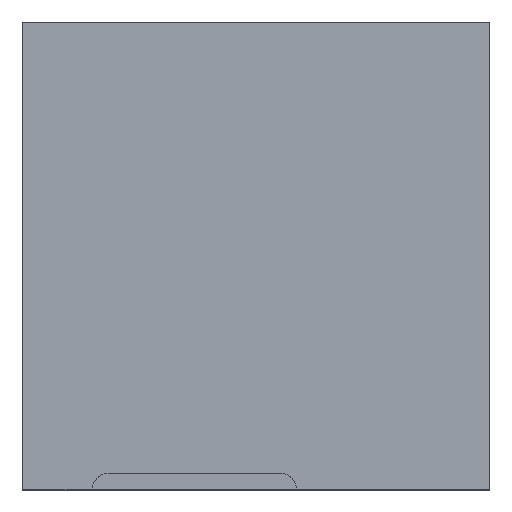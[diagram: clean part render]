
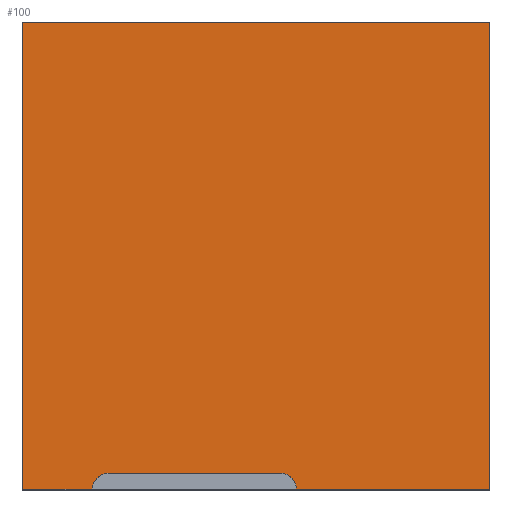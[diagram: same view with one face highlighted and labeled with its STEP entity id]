
A CAD part, top view. The second image highlights one B-rep face of the part: STEP entity #100.
In plain terms, the highlighted planar face has unit normal (0, 0, 1).
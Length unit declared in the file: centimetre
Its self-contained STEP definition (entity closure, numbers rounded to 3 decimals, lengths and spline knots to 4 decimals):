
#27 = LINE ( 'NONE', #314, #396 ) ;
#38 = CARTESIAN_POINT ( 'NONE',  ( 586.5266, 0., 1000. ) ) ;
#44 = DIRECTION ( 'NONE',  ( -1., 0., 0. ) ) ;
#79 = ORIENTED_EDGE ( 'NONE', *, *, #313, .T. ) ;
#92 = VECTOR ( 'NONE', #263, 100. ) ;
#94 = CARTESIAN_POINT ( 'NONE',  ( 0., 1000., 1000. ) ) ;
#100 = ADVANCED_FACE ( 'NONE', ( #522 ), #468, .T. ) ;
#104 = VERTEX_POINT ( 'NONE', #575 ) ;
#113 = ORIENTED_EDGE ( 'NONE', *, *, #726, .F. ) ;
#119 = DIRECTION ( 'NONE',  ( 1., 0., 0. ) ) ;
#158 = CARTESIAN_POINT ( 'NONE',  ( 183.9028, 34.1509, 1000. ) ) ;
#159 = EDGE_CURVE ( 'NONE', #387, #755, #27, .T. ) ;
#162 = CARTESIAN_POINT ( 'NONE',  ( 0., 1000., 1000. ) ) ;
#166 = AXIS2_PLACEMENT_3D ( 'NONE', #686, #690, #509 ) ;
#181 = DIRECTION ( 'NONE',  ( 0., 0., 1. ) ) ;
#190 = CARTESIAN_POINT ( 'NONE',  ( 552.3757, 34.1509, 1000. ) ) ;
#235 = ORIENTED_EDGE ( 'NONE', *, *, #485, .T. ) ;
#236 = LINE ( 'NONE', #655, #257 ) ;
#252 = LINE ( 'NONE', #190, #92 ) ;
#257 = VECTOR ( 'NONE', #119, 100. ) ;
#263 = DIRECTION ( 'NONE',  ( -1., 0., 0. ) ) ;
#274 = LINE ( 'NONE', #162, #310 ) ;
#285 = DIRECTION ( 'NONE',  ( 0., -1., 0. ) ) ;
#295 = AXIS2_PLACEMENT_3D ( 'NONE', #645, #181, #343 ) ;
#310 = VECTOR ( 'NONE', #44, 100. ) ;
#313 = EDGE_CURVE ( 'NONE', #104, #654, #756, .T. ) ;
#314 = CARTESIAN_POINT ( 'NONE',  ( 1000., 1000., 1000. ) ) ;
#319 = CARTESIAN_POINT ( 'NONE',  ( 0., 0., 1000. ) ) ;
#324 = DIRECTION ( 'NONE',  ( 0., 0., 1. ) ) ;
#328 = CARTESIAN_POINT ( 'NONE',  ( 0., 0., 1000. ) ) ;
#343 = DIRECTION ( 'NONE',  ( 1., 0., 0. ) ) ;
#370 = EDGE_CURVE ( 'NONE', #755, #104, #274, .T. ) ;
#387 = VERTEX_POINT ( 'NONE', #449 ) ;
#390 = VERTEX_POINT ( 'NONE', #158 ) ;
#396 = VECTOR ( 'NONE', #608, 100. ) ;
#408 = CIRCLE ( 'NONE', #166, 34.1509 ) ;
#433 = CIRCLE ( 'NONE', #552, 34.1509 ) ;
#438 = CARTESIAN_POINT ( 'NONE',  ( 149.7519, 0., 1000. ) ) ;
#449 = CARTESIAN_POINT ( 'NONE',  ( 1000., 0., 1000. ) ) ;
#468 = PLANE ( 'NONE',  #295 ) ;
#472 = EDGE_CURVE ( 'NONE', #654, #571, #236, .T. ) ;
#485 = EDGE_CURVE ( 'NONE', #647, #387, #606, .T. ) ;
#507 = ORIENTED_EDGE ( 'NONE', *, *, #616, .F. ) ;
#509 = DIRECTION ( 'NONE',  ( 1., 0., 0. ) ) ;
#522 = FACE_OUTER_BOUND ( 'NONE', #581, .T. ) ;
#546 = DIRECTION ( 'NONE',  ( 1., 0., 0. ) ) ;
#552 = AXIS2_PLACEMENT_3D ( 'NONE', #612, #324, #731 ) ;
#571 = VERTEX_POINT ( 'NONE', #438 ) ;
#575 = CARTESIAN_POINT ( 'NONE',  ( 0., 1000., 1000. ) ) ;
#581 = EDGE_LOOP ( 'NONE', ( #633, #507, #113, #235, #664, #636, #79, #619 ) ) ;
#596 = EDGE_CURVE ( 'NONE', #390, #571, #433, .T. ) ;
#597 = CARTESIAN_POINT ( 'NONE',  ( 552.3757, 34.1509, 1000. ) ) ;
#606 = LINE ( 'NONE', #319, #613 ) ;
#608 = DIRECTION ( 'NONE',  ( 0., 1., 0. ) ) ;
#612 = CARTESIAN_POINT ( 'NONE',  ( 183.9028, 0., 1000. ) ) ;
#613 = VECTOR ( 'NONE', #546, 100. ) ;
#616 = EDGE_CURVE ( 'NONE', #768, #390, #252, .T. ) ;
#618 = CARTESIAN_POINT ( 'NONE',  ( 1000., 1000., 1000. ) ) ;
#619 = ORIENTED_EDGE ( 'NONE', *, *, #472, .T. ) ;
#633 = ORIENTED_EDGE ( 'NONE', *, *, #596, .F. ) ;
#636 = ORIENTED_EDGE ( 'NONE', *, *, #370, .T. ) ;
#645 = CARTESIAN_POINT ( 'NONE',  ( 0., 0., 1000. ) ) ;
#647 = VERTEX_POINT ( 'NONE', #38 ) ;
#654 = VERTEX_POINT ( 'NONE', #328 ) ;
#655 = CARTESIAN_POINT ( 'NONE',  ( 0., 0., 1000. ) ) ;
#660 = VECTOR ( 'NONE', #285, 100. ) ;
#664 = ORIENTED_EDGE ( 'NONE', *, *, #159, .T. ) ;
#686 = CARTESIAN_POINT ( 'NONE',  ( 552.3757, 0., 1000. ) ) ;
#690 = DIRECTION ( 'NONE',  ( 0., 0., 1. ) ) ;
#726 = EDGE_CURVE ( 'NONE', #647, #768, #408, .T. ) ;
#731 = DIRECTION ( 'NONE',  ( 1., 0., 0. ) ) ;
#755 = VERTEX_POINT ( 'NONE', #618 ) ;
#756 = LINE ( 'NONE', #94, #660 ) ;
#768 = VERTEX_POINT ( 'NONE', #597 ) ;
